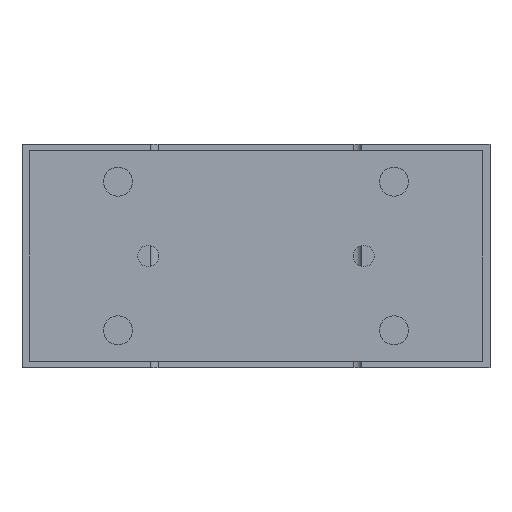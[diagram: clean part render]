
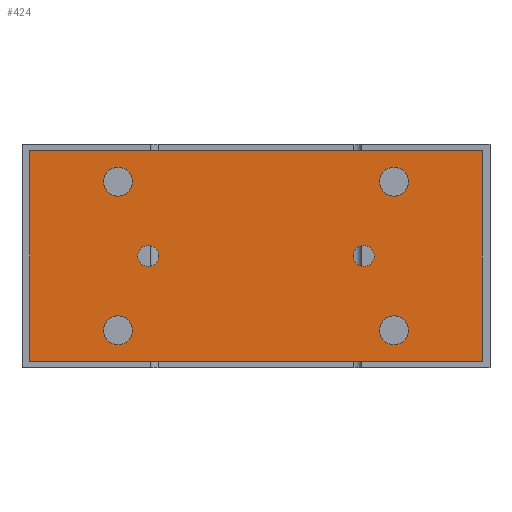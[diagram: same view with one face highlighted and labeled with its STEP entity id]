
A CAD part, left-side view. The second image highlights one B-rep face of the part: STEP entity #424.
In plain terms, the highlighted planar face has unit normal (-1, 0, 0).
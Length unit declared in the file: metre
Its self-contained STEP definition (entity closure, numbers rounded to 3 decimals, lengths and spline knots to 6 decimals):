
#424 = ADVANCED_FACE( '', ( #1017, #1018, #1019, #1020, #1021, #1022, #1023 ), #1024, .T. );
#1017 = FACE_BOUND( '', #1817, .T. );
#1018 = FACE_BOUND( '', #1818, .T. );
#1019 = FACE_BOUND( '', #1819, .T. );
#1020 = FACE_BOUND( '', #1820, .T. );
#1021 = FACE_BOUND( '', #1821, .T. );
#1022 = FACE_BOUND( '', #1822, .T. );
#1023 = FACE_OUTER_BOUND( '', #1823, .T. );
#1024 = PLANE( '', #1824 );
#1817 = EDGE_LOOP( '', ( #2941 ) );
#1818 = EDGE_LOOP( '', ( #2942 ) );
#1819 = EDGE_LOOP( '', ( #2943 ) );
#1820 = EDGE_LOOP( '', ( #2944 ) );
#1821 = EDGE_LOOP( '', ( #2945 ) );
#1822 = EDGE_LOOP( '', ( #2946 ) );
#1823 = EDGE_LOOP( '', ( #2947, #2948, #2949, #2950 ) );
#1824 = AXIS2_PLACEMENT_3D( '', #2951, #2952, #2953 );
#2941 = ORIENTED_EDGE( '', *, *, #4137, .F. );
#2942 = ORIENTED_EDGE( '', *, *, #4138, .F. );
#2943 = ORIENTED_EDGE( '', *, *, #4139, .F. );
#2944 = ORIENTED_EDGE( '', *, *, #4140, .F. );
#2945 = ORIENTED_EDGE( '', *, *, #4141, .F. );
#2946 = ORIENTED_EDGE( '', *, *, #4142, .T. );
#2947 = ORIENTED_EDGE( '', *, *, #4110, .T. );
#2948 = ORIENTED_EDGE( '', *, *, #4143, .T. );
#2949 = ORIENTED_EDGE( '', *, *, #4144, .T. );
#2950 = ORIENTED_EDGE( '', *, *, #4145, .T. );
#2951 = CARTESIAN_POINT( '', ( -0.118, -0.086, -0.0025 ) );
#2952 = DIRECTION( '', ( -1., 0., 0. ) );
#2953 = DIRECTION( '', ( 0., 0., 1. ) );
#4110 = EDGE_CURVE( '', #4863, #4861, #4864, .T. );
#4137 = EDGE_CURVE( '', #4897, #4897, #4898, .T. );
#4138 = EDGE_CURVE( '', #4899, #4899, #4900, .T. );
#4139 = EDGE_CURVE( '', #4901, #4901, #4902, .T. );
#4140 = EDGE_CURVE( '', #4903, #4903, #4904, .T. );
#4141 = EDGE_CURVE( '', #4905, #4905, #4906, .T. );
#4142 = EDGE_CURVE( '', #4907, #4907, #4908, .T. );
#4143 = EDGE_CURVE( '', #4861, #4909, #4910, .T. );
#4144 = EDGE_CURVE( '', #4909, #4911, #4912, .T. );
#4145 = EDGE_CURVE( '', #4911, #4863, #4913, .T. );
#4861 = VERTEX_POINT( '', #5863 );
#4863 = VERTEX_POINT( '', #5866 );
#4864 = LINE( '', #5867, #5868 );
#4897 = VERTEX_POINT( '', #5909 );
#4898 = CIRCLE( '', #5910, 0.0055 );
#4899 = VERTEX_POINT( '', #5911 );
#4900 = CIRCLE( '', #5912, 0.0055 );
#4901 = VERTEX_POINT( '', #5913 );
#4902 = CIRCLE( '', #5914, 0.0055 );
#4903 = VERTEX_POINT( '', #5915 );
#4904 = CIRCLE( '', #5916, 0.0055 );
#4905 = VERTEX_POINT( '', #5917 );
#4906 = CIRCLE( '', #5918, 0.004 );
#4907 = VERTEX_POINT( '', #5919 );
#4908 = CIRCLE( '', #5920, 0.004 );
#4909 = VERTEX_POINT( '', #5921 );
#4910 = LINE( '', #5922, #5923 );
#4911 = VERTEX_POINT( '', #5924 );
#4912 = LINE( '', #5925, #5926 );
#4913 = LINE( '', #5927, #5928 );
#5863 = CARTESIAN_POINT( '', ( -0.118, -0.086, -0.0025 ) );
#5866 = CARTESIAN_POINT( '', ( -0.118, -0.086, -0.0825 ) );
#5867 = CARTESIAN_POINT( '', ( -0.118, -0.086, -0.0825 ) );
#5868 = VECTOR( '', #6870, 1. );
#5909 = CARTESIAN_POINT( '', ( -0.118, -0.0525, -0.06525 ) );
#5910 = AXIS2_PLACEMENT_3D( '', #6903, #6904, #6905 );
#5911 = CARTESIAN_POINT( '', ( -0.118, 0.0525, -0.06525 ) );
#5912 = AXIS2_PLACEMENT_3D( '', #6906, #6907, #6908 );
#5913 = CARTESIAN_POINT( '', ( -0.118, -0.0525, -0.00875 ) );
#5914 = AXIS2_PLACEMENT_3D( '', #6909, #6910, #6911 );
#5915 = CARTESIAN_POINT( '', ( -0.118, 0.0525, -0.00875 ) );
#5916 = AXIS2_PLACEMENT_3D( '', #6912, #6913, #6914 );
#5917 = CARTESIAN_POINT( '', ( -0.118, -0.037, -0.0425 ) );
#5918 = AXIS2_PLACEMENT_3D( '', #6915, #6916, #6917 );
#5919 = CARTESIAN_POINT( '', ( -0.118, 0.037, -0.0425 ) );
#5920 = AXIS2_PLACEMENT_3D( '', #6918, #6919, #6920 );
#5921 = CARTESIAN_POINT( '', ( -0.118, 0.086, -0.0025 ) );
#5922 = CARTESIAN_POINT( '', ( -0.118, -0.086, -0.0025 ) );
#5923 = VECTOR( '', #6921, 1. );
#5924 = CARTESIAN_POINT( '', ( -0.118, 0.086, -0.0825 ) );
#5925 = CARTESIAN_POINT( '', ( -0.118, 0.086, -0.0025 ) );
#5926 = VECTOR( '', #6922, 1. );
#5927 = CARTESIAN_POINT( '', ( -0.118, 0.086, -0.0825 ) );
#5928 = VECTOR( '', #6923, 1. );
#6870 = DIRECTION( '', ( 0., 0., 1. ) );
#6903 = CARTESIAN_POINT( '', ( -0.118, -0.0525, -0.07075 ) );
#6904 = DIRECTION( '', ( -1., 0., 0. ) );
#6905 = DIRECTION( '', ( 0., 0., 1. ) );
#6906 = CARTESIAN_POINT( '', ( -0.118, 0.0525, -0.07075 ) );
#6907 = DIRECTION( '', ( -1., 0., 0. ) );
#6908 = DIRECTION( '', ( 0., 0., 1. ) );
#6909 = CARTESIAN_POINT( '', ( -0.118, -0.0525, -0.01425 ) );
#6910 = DIRECTION( '', ( -1., 0., 0. ) );
#6911 = DIRECTION( '', ( 0., 0., 1. ) );
#6912 = CARTESIAN_POINT( '', ( -0.118, 0.0525, -0.01425 ) );
#6913 = DIRECTION( '', ( -1., 0., 0. ) );
#6914 = DIRECTION( '', ( 0., 0., 1. ) );
#6915 = CARTESIAN_POINT( '', ( -0.118, -0.041, -0.0425 ) );
#6916 = DIRECTION( '', ( -1., 0., 0. ) );
#6917 = DIRECTION( '', ( 0., 1., 0. ) );
#6918 = CARTESIAN_POINT( '', ( -0.118, 0.041, -0.0425 ) );
#6919 = DIRECTION( '', ( 1., 0., 0. ) );
#6920 = DIRECTION( '', ( 0., -1., 0. ) );
#6921 = DIRECTION( '', ( 0., 1., 0. ) );
#6922 = DIRECTION( '', ( 0., 0., -1. ) );
#6923 = DIRECTION( '', ( 0., -1., 0. ) );
